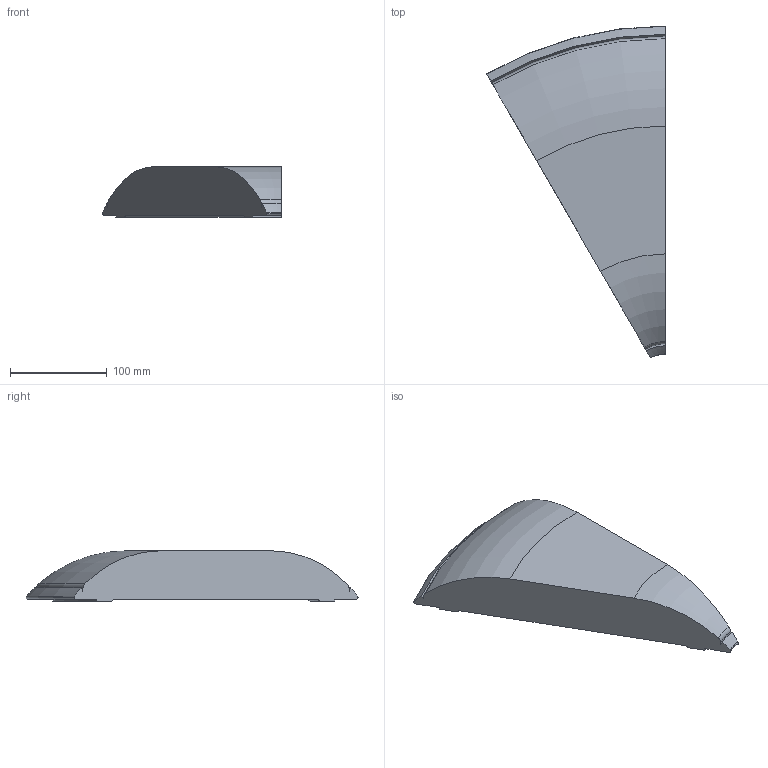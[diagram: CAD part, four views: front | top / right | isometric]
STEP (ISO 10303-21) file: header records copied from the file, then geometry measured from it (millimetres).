
FILE_DESCRIPTION(/* description */ ('Unknown'),/* implementation_level */ '2;1');
FILE_NAME(/* name */ '3D_Footsie_Corner30deg',/* time_stamp */ '2024-01-11T11:49:16+01:00',/* author */ ('Unknown'),/* organization */ ('Unknown'),/* preprocessor_version */ 'ST-DEVELOPER v18.104',/* originating_system */ 'Solid Edge',/* authorisation */ 'Unknown');
FILE_SCHEMA (('AUTOMOTIVE_DESIGN {1 0 10303 214 3 1 1}'));
Length unit declared in the file: millimetre
Products named in the file (1): 3D_Footsie_Corner30deg
Bounding box: 184.64 x 342.68 x 52 mm (x, y, z)
Volume: 1466086.2 mm3; surface area: 103953.6 mm2
Topology: 1 solids, 1 shells, 26 faces, 72 edges, 48 vertices
Faces by surface type: torus 12, plane 8, cone 4, cylinder 2
Entity records: 894 total; most frequent: DIRECTION 174, CARTESIAN_POINT 147, ORIENTED_EDGE 144, AXIS2_PLACEMENT_3D 75, EDGE_CURVE 72, VERTEX_POINT 48, CIRCLE 48, EDGE_LOOP 26
